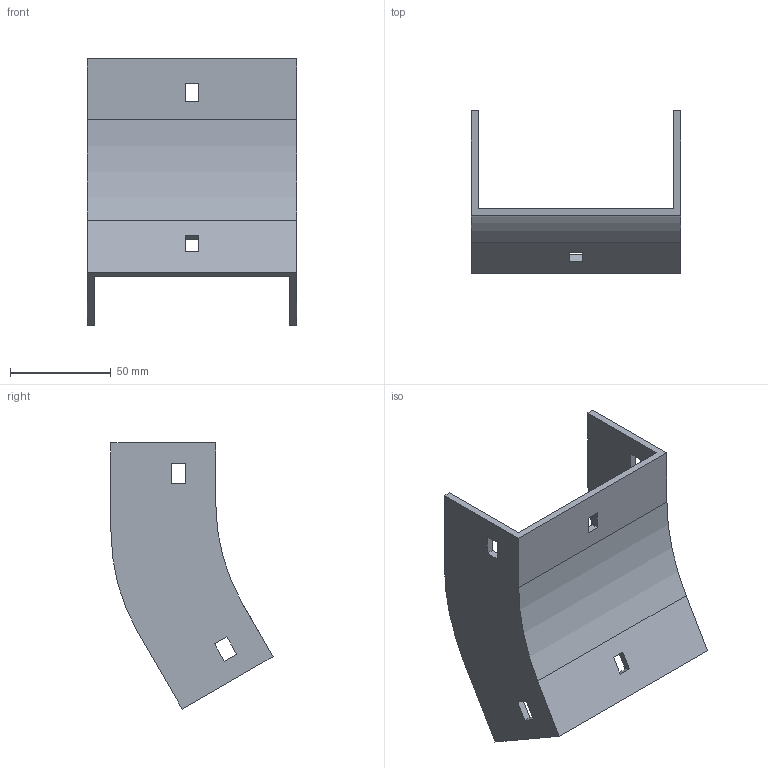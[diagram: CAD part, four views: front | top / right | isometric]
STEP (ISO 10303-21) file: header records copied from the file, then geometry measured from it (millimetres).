
FILE_DESCRIPTION (( 'STEP AP214' ), '1' );
FILE_NAME ('35F1B100.step', '2025-02-21T12:49:19', ( '' ), ( '' ), 'SwSTEP 2.0', 'SolidWorks 2023', '' );
FILE_SCHEMA (( 'AUTOMOTIVE_DESIGN' ));
Length unit declared in the file: millimetre
Products named in the file (1): 35F1B100
Bounding box: 104 x 80.4 x 131.98 mm (x, y, z)
Volume: 83486.2 mm3; surface area: 50781.6 mm2
Topology: 1 solids, 1 shells, 42 faces, 120 edges, 80 vertices
Faces by surface type: plane 38, cylinder 4
Entity records: 1399 total; most frequent: CARTESIAN_POINT 243, ORIENTED_EDGE 240, DIRECTION 214, EDGE_CURVE 120, VECTOR 112, LINE 112, VERTEX_POINT 80, EDGE_LOOP 54
